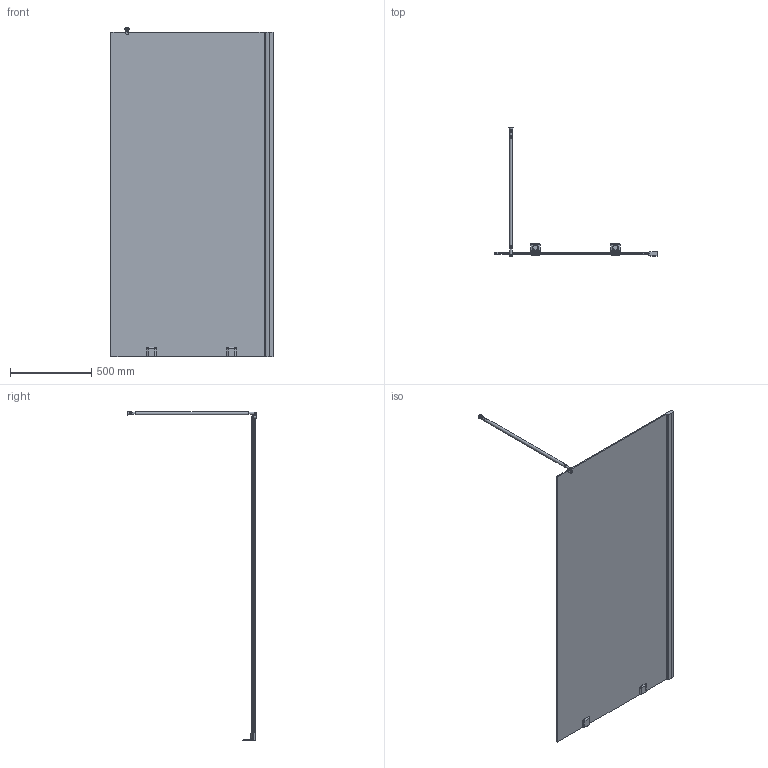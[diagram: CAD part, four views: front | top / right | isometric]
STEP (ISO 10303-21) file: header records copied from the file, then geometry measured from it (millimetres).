
FILE_DESCRIPTION(/* description */ (''),/* implementation_level */ '2;1');
FILE_NAME(/* name */ 'D:\77\TREND DOOR GK-861NBPITL\TREND DOOR GK-861NBPITL правая модель\TREND DOOR GK-861NBPITL ПРАВАЯ-3D.stp',/* time_stamp */ '2020-12-28T19:14:56+03:00',/* author */ ('User'),/* organization */ (''),/* preprocessor_version */ 'ST-DEVELOPER v15.2',/* originating_system */ 'Autodesk Inventor 2014',/* authorisation */ '');
FILE_SCHEMA (('AUTOMOTIVE_DESIGN { 1 0 10303 214 3 1 1 }'));
Length unit declared in the file: millimetre
Products named in the file (1): TREND DOOR GK-861NBPITL ПРАВАЯ-
3D
Bounding box: 1000.14 x 800 x 2031.5 mm (x, y, z)
Volume: 18008972 mm3; surface area: 4194326.9 mm2
Topology: 3 solids, 3 shells, 154 faces, 356 edges, 226 vertices
Faces by surface type: plane 65, cylinder 43, cone 15, sphere 14, torus 12, bspline 5
Full cylindrical faces by diameter (mm): 6 x1, 12 x1, 15 x2, 20 x3, 26 x1
Entity records: 4957 total; most frequent: CARTESIAN_POINT 1391, DIRECTION 713, ORIENTED_EDGE 646, EDGE_CURVE 323, AXIS2_PLACEMENT_3D 281, VERTEX_POINT 215, EDGE_LOOP 194, STYLED_ITEM 157
